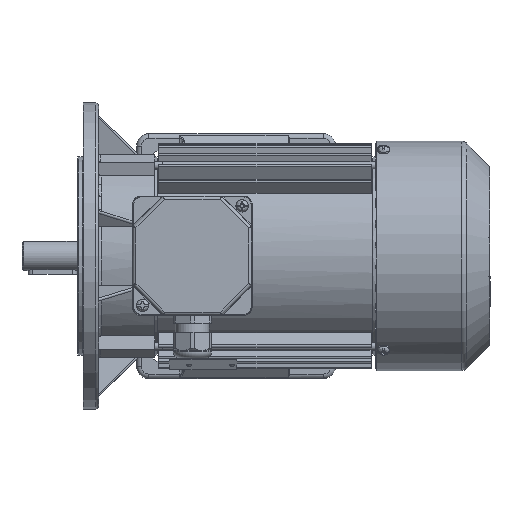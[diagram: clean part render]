
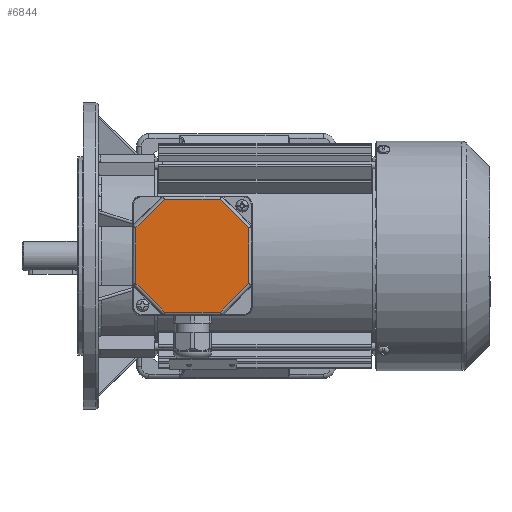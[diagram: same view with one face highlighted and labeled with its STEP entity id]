
A CAD part, top view. The second image highlights one B-rep face of the part: STEP entity #6844.
In plain terms, the highlighted planar face has unit normal (0, 0, 1).
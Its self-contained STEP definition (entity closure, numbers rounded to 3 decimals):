
#6844 = ADVANCED_FACE( '', ( #13993 ), #13994, .T. );
#13993 = FACE_OUTER_BOUND( '', #34400, .T. );
#13994 = PLANE( '', #34401 );
#34400 = EDGE_LOOP( '', ( #55490, #55491, #55492, #55493, #55494, #55495, #55496, #55497 ) );
#34401 = AXIS2_PLACEMENT_3D( '', #55498, #55499, #55500 );
#55490 = ORIENTED_EDGE( '', *, *, #61693, .T. );
#55491 = ORIENTED_EDGE( '', *, *, #61887, .T. );
#55492 = ORIENTED_EDGE( '', *, *, #58781, .T. );
#55493 = ORIENTED_EDGE( '', *, *, #64871, .T. );
#55494 = ORIENTED_EDGE( '', *, *, #62466, .T. );
#55495 = ORIENTED_EDGE( '', *, *, #63747, .T. );
#55496 = ORIENTED_EDGE( '', *, *, #66575, .T. );
#55497 = ORIENTED_EDGE( '', *, *, #62106, .T. );
#55498 = CARTESIAN_POINT( '', ( -39., 39., 12. ) );
#55499 = DIRECTION( '', ( 0., 0., 1. ) );
#55500 = DIRECTION( '', ( 1., 0., 0. ) );
#58781 = EDGE_CURVE( '', #68539, #68540, #68541, .F. );
#61693 = EDGE_CURVE( '', #73600, #73598, #73601, .F. );
#61887 = EDGE_CURVE( '', #73598, #68539, #73921, .T. );
#62106 = EDGE_CURVE( '', #74260, #73600, #74261, .T. );
#62466 = EDGE_CURVE( '', #74817, #72918, #74818, .F. );
#63747 = EDGE_CURVE( '', #72918, #76732, #76733, .T. );
#64871 = EDGE_CURVE( '', #68540, #74817, #78229, .T. );
#66575 = EDGE_CURVE( '', #76732, #74260, #80200, .F. );
#68539 = VERTEX_POINT( '', #81188 );
#68540 = VERTEX_POINT( '', #81189 );
#68541 = LINE( '', #81190, #81191 );
#72918 = VERTEX_POINT( '', #90248 );
#73598 = VERTEX_POINT( '', #92123 );
#73600 = VERTEX_POINT( '', #92125 );
#73601 = LINE( '', #92126, #92127 );
#73921 = LINE( '', #92743, #92744 );
#74260 = VERTEX_POINT( '', #93458 );
#74261 = LINE( '', #93459, #93460 );
#74817 = VERTEX_POINT( '', #94750 );
#74818 = LINE( '', #94751, #94752 );
#76732 = VERTEX_POINT( '', #98688 );
#76733 = LINE( '', #98689, #98690 );
#78229 = LINE( '', #102977, #102978 );
#80200 = LINE( '', #109440, #109441 );
#81188 = CARTESIAN_POINT( '', ( 18.255, 36.825, 12. ) );
#81189 = CARTESIAN_POINT( '', ( -18.255, 36.825, 12. ) );
#81190 = CARTESIAN_POINT( '', ( -19.069, 36.825, 12. ) );
#81191 = VECTOR( '', #111036, 1000. );
#90248 = CARTESIAN_POINT( '', ( -36.825, -18.255, 12. ) );
#92123 = CARTESIAN_POINT( '', ( 36.825, 18.255, 12. ) );
#92125 = CARTESIAN_POINT( '', ( 36.825, -18.255, 12. ) );
#92126 = CARTESIAN_POINT( '', ( 36.825, 19.069, 12. ) );
#92127 = VECTOR( '', #114945, 1000. );
#92743 = CARTESIAN_POINT( '', ( 17.679, 37.401, 12. ) );
#92744 = VECTOR( '', #115204, 1000. );
#93458 = CARTESIAN_POINT( '', ( 18.255, -36.825, 12. ) );
#93459 = CARTESIAN_POINT( '', ( 37.401, -17.679, 12. ) );
#93460 = VECTOR( '', #115470, 1000. );
#94750 = CARTESIAN_POINT( '', ( -36.825, 18.255, 12. ) );
#94751 = CARTESIAN_POINT( '', ( -36.825, -19.069, 12. ) );
#94752 = VECTOR( '', #115881, 1000. );
#98688 = CARTESIAN_POINT( '', ( -18.255, -36.825, 12. ) );
#98689 = CARTESIAN_POINT( '', ( -17.679, -37.401, 12. ) );
#98690 = VECTOR( '', #117692, 1000. );
#102977 = CARTESIAN_POINT( '', ( -37.401, 17.679, 12. ) );
#102978 = VECTOR( '', #118798, 1000. );
#109440 = CARTESIAN_POINT( '', ( 19.069, -36.825, 12. ) );
#109441 = VECTOR( '', #120112, 1000. );
#111036 = DIRECTION( '', ( 1., 0., 0. ) );
#114945 = DIRECTION( '', ( 0., -1., 0. ) );
#115204 = DIRECTION( '', ( -0.707, 0.707, 0. ) );
#115470 = DIRECTION( '', ( 0.707, 0.707, 0. ) );
#115881 = DIRECTION( '', ( 0., 1., 0. ) );
#117692 = DIRECTION( '', ( 0.707, -0.707, 0. ) );
#118798 = DIRECTION( '', ( -0.707, -0.707, 0. ) );
#120112 = DIRECTION( '', ( -1., 0., 0. ) );
